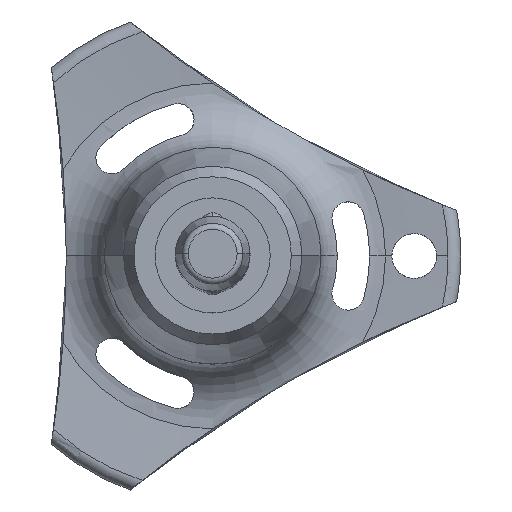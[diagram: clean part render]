
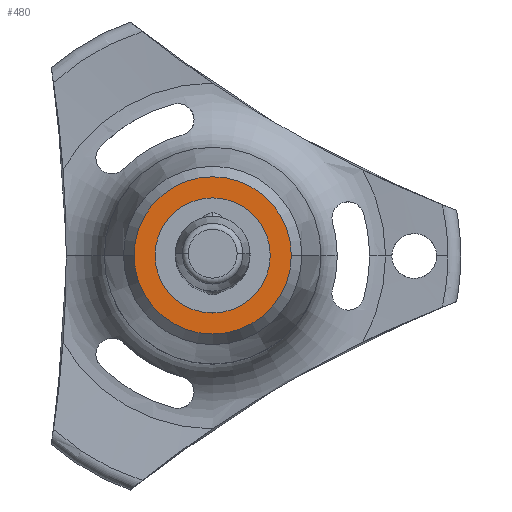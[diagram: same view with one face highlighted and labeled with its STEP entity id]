
A CAD part, top view. The second image highlights one B-rep face of the part: STEP entity #480.
In plain terms, the highlighted planar face has unit normal (0, 0, 1).
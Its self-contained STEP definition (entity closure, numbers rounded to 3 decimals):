
#10 = ORIENTED_EDGE ( 'NONE', *, *, #283, .F. ) ;
#25 = EDGE_LOOP ( 'NONE', ( #1239, #513 ) ) ;
#29 = DIRECTION ( 'NONE',  ( 0., 0., -1. ) ) ;
#96 = CIRCLE ( 'NONE', #617, 5.262 ) ;
#240 = DIRECTION ( 'NONE',  ( 0., 0., -1. ) ) ;
#257 = EDGE_CURVE ( 'NONE', #1841, #1068, #1164, .T. ) ;
#283 = EDGE_CURVE ( 'NONE', #2298, #322, #527, .T. ) ;
#322 = VERTEX_POINT ( 'NONE', #1863 ) ;
#366 = DIRECTION ( 'NONE',  ( -1., 0., 0. ) ) ;
#408 = DIRECTION ( 'NONE',  ( -1., 0., 0. ) ) ;
#439 = AXIS2_PLACEMENT_3D ( 'NONE', #964, #1410, #1831 ) ;
#480 = ADVANCED_FACE ( 'NONE', ( #547, #2024 ), #1150, .T. ) ;
#513 = ORIENTED_EDGE ( 'NONE', *, *, #1013, .T. ) ;
#527 = CIRCLE ( 'NONE', #1303, 5.262 ) ;
#547 = FACE_BOUND ( 'NONE', #25, .T. ) ;
#617 = AXIS2_PLACEMENT_3D ( 'NONE', #2025, #1176, #366 ) ;
#761 = ORIENTED_EDGE ( 'NONE', *, *, #2418, .F. ) ;
#820 = CARTESIAN_POINT ( 'NONE',  ( 0., 0., -60.4 ) ) ;
#964 = CARTESIAN_POINT ( 'NONE',  ( 0., 3.852, -60.4 ) ) ;
#1013 = EDGE_CURVE ( 'NONE', #1068, #1841, #2392, .T. ) ;
#1068 = VERTEX_POINT ( 'NONE', #2361 ) ;
#1150 = PLANE ( 'NONE',  #439 ) ;
#1164 = CIRCLE ( 'NONE', #2697, 3.852 ) ;
#1176 = DIRECTION ( 'NONE',  ( 0., 0., -1. ) ) ;
#1210 = AXIS2_PLACEMENT_3D ( 'NONE', #1671, #1441, #408 ) ;
#1239 = ORIENTED_EDGE ( 'NONE', *, *, #257, .T. ) ;
#1262 = DIRECTION ( 'NONE',  ( -1., 0., 0. ) ) ;
#1303 = AXIS2_PLACEMENT_3D ( 'NONE', #1699, #29, #1262 ) ;
#1410 = DIRECTION ( 'NONE',  ( 0., 0., 1. ) ) ;
#1441 = DIRECTION ( 'NONE',  ( 0., 0., -1. ) ) ;
#1671 = CARTESIAN_POINT ( 'NONE',  ( 0., 0., -60.4 ) ) ;
#1699 = CARTESIAN_POINT ( 'NONE',  ( 0., 0., -60.4 ) ) ;
#1763 = CARTESIAN_POINT ( 'NONE',  ( -5.262, 0., -60.4 ) ) ;
#1831 = DIRECTION ( 'NONE',  ( 1., 0., 0. ) ) ;
#1841 = VERTEX_POINT ( 'NONE', #2222 ) ;
#1863 = CARTESIAN_POINT ( 'NONE',  ( 5.262, 0., -60.4 ) ) ;
#2024 = FACE_OUTER_BOUND ( 'NONE', #2576, .T. ) ;
#2025 = CARTESIAN_POINT ( 'NONE',  ( 0., 0., -60.4 ) ) ;
#2130 = DIRECTION ( 'NONE',  ( -1., 0., 0. ) ) ;
#2222 = CARTESIAN_POINT ( 'NONE',  ( -3.852, 0., -60.4 ) ) ;
#2298 = VERTEX_POINT ( 'NONE', #1763 ) ;
#2361 = CARTESIAN_POINT ( 'NONE',  ( 3.852, 0., -60.4 ) ) ;
#2392 = CIRCLE ( 'NONE', #1210, 3.852 ) ;
#2418 = EDGE_CURVE ( 'NONE', #322, #2298, #96, .T. ) ;
#2576 = EDGE_LOOP ( 'NONE', ( #10, #761 ) ) ;
#2697 = AXIS2_PLACEMENT_3D ( 'NONE', #820, #240, #2130 ) ;
